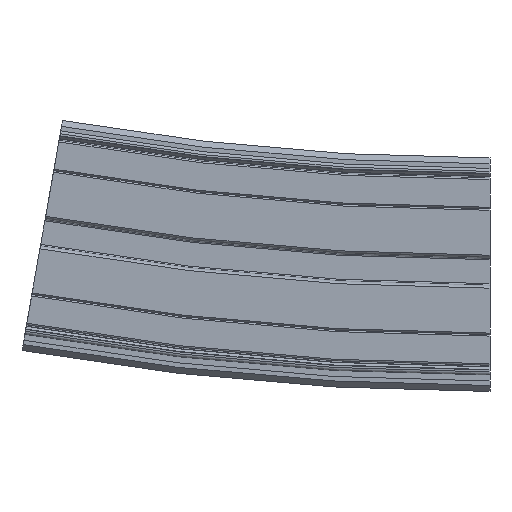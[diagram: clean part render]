
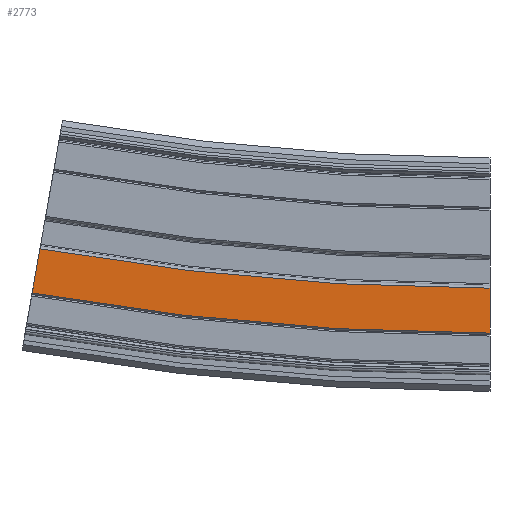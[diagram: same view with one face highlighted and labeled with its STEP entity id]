
A CAD part, left-side view. The second image highlights one B-rep face of the part: STEP entity #2773.
In plain terms, the highlighted planar face has unit normal (-1, 0, 0).
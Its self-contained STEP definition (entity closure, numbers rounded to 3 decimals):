
#267=CIRCLE('',#3020,865.5);
#268=CIRCLE('',#3022,880.5);
#442=FACE_OUTER_BOUND('',#596,.T.);
#596=EDGE_LOOP('',(#2171,#2172,#2173,#2174));
#773=LINE('',#9181,#979);
#774=LINE('',#9183,#980);
#979=VECTOR('',#3622,10.);
#980=VECTOR('',#3623,10.);
#1235=VERTEX_POINT('',#9174);
#1236=VERTEX_POINT('',#9176);
#1237=VERTEX_POINT('',#9180);
#1238=VERTEX_POINT('',#9182);
#1602=EDGE_CURVE('',#1235,#1236,#267,.T.);
#1603=EDGE_CURVE('',#1237,#1235,#773,.T.);
#1604=EDGE_CURVE('',#1238,#1236,#774,.T.);
#1605=EDGE_CURVE('',#1237,#1238,#268,.T.);
#2171=ORIENTED_EDGE('',*,*,#1603,.T.);
#2172=ORIENTED_EDGE('',*,*,#1602,.T.);
#2173=ORIENTED_EDGE('',*,*,#1604,.F.);
#2174=ORIENTED_EDGE('',*,*,#1605,.F.);
#2663=PLANE('',#3021);
#2773=ADVANCED_FACE('',(#442),#2663,.T.);
#3020=AXIS2_PLACEMENT_3D('',#9178,#3618,#3619);
#3021=AXIS2_PLACEMENT_3D('',#9179,#3620,#3621);
#3022=AXIS2_PLACEMENT_3D('',#9184,#3624,#3625);
#3618=DIRECTION('center_axis',(1.,0.,0.));
#3619=DIRECTION('ref_axis',(0.,0.,-1.));
#3620=DIRECTION('center_axis',(-1.,0.,0.));
#3621=DIRECTION('ref_axis',(0.,0.,1.));
#3622=DIRECTION('',(0.,0.,1.));
#3623=DIRECTION('',(0.,-0.174,0.985));
#3624=DIRECTION('center_axis',(1.,0.,0.));
#3625=DIRECTION('ref_axis',(0.,0.,-1.));
#9174=CARTESIAN_POINT('',(-32.,0.,-5.5));
#9176=CARTESIAN_POINT('',(-32.,150.292,7.649));
#9178=CARTESIAN_POINT('Origin',(-32.,0.,860.));
#9179=CARTESIAN_POINT('Origin',(-32.,0.,-20.5));
#9180=CARTESIAN_POINT('',(-32.,0.,-20.5));
#9181=CARTESIAN_POINT('',(-32.,0.,-20.5));
#9182=CARTESIAN_POINT('',(-32.,152.897,-7.123));
#9183=CARTESIAN_POINT('',(-32.,152.897,-7.123));
#9184=CARTESIAN_POINT('Origin',(-32.,0.,860.));
